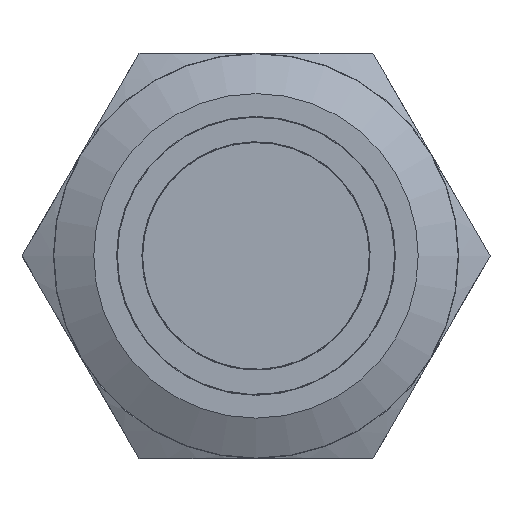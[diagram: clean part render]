
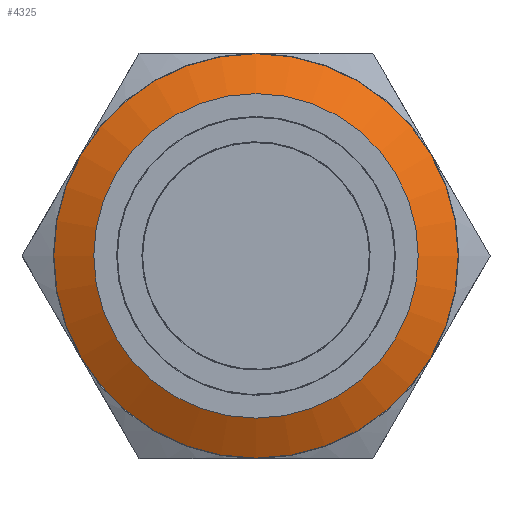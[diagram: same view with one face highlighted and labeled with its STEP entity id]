
A CAD part, top view. The second image highlights one B-rep face of the part: STEP entity #4325.
In plain terms, the highlighted conical face has half-angle 62.049 degrees and reference radius 12.4 mm.
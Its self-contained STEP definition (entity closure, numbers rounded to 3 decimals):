
#148=CONICAL_SURFACE('',#5109,12.4,62.049);
#1579=EDGE_LOOP('',(#2240));
#1580=EDGE_LOOP('',(#2241));
#2240=ORIENTED_EDGE('',*,*,#3223,.F.);
#2241=ORIENTED_EDGE('',*,*,#3224,.F.);
#3223=EDGE_CURVE('',#4784,#4784,#3588,.T.);
#3224=EDGE_CURVE('',#4785,#4785,#3589,.T.);
#3588=CIRCLE('',#5107,9.95);
#3589=CIRCLE('',#5108,12.4);
#4325=ADVANCED_FACE('',(#4523,#4524),#148,.T.);
#4523=FACE_BOUND('',#1579,.T.);
#4524=FACE_BOUND('',#1580,.T.);
#4784=VERTEX_POINT('',#8709);
#4785=VERTEX_POINT('',#8711);
#5107=AXIS2_PLACEMENT_3D('',#8708,#5730,#5731);
#5108=AXIS2_PLACEMENT_3D('',#8710,#5732,#5733);
#5109=AXIS2_PLACEMENT_3D('',#8712,#5734,#5735);
#5730=DIRECTION('',(0.,0.,1.));
#5731=DIRECTION('',(-1.,0.,0.));
#5732=DIRECTION('',(0.,0.,-1.));
#5733=DIRECTION('',(-1.,0.,0.));
#5734=DIRECTION('',(0.,0.,-1.));
#5735=DIRECTION('',(-1.,0.,0.));
#8708=CARTESIAN_POINT('',(0.,0.,11.3));
#8709=CARTESIAN_POINT('',(-9.95,0.,11.3));
#8710=CARTESIAN_POINT('',(0.,0.,10.));
#8711=CARTESIAN_POINT('',(-12.4,0.,10.));
#8712=CARTESIAN_POINT('',(0.,0.,10.));
